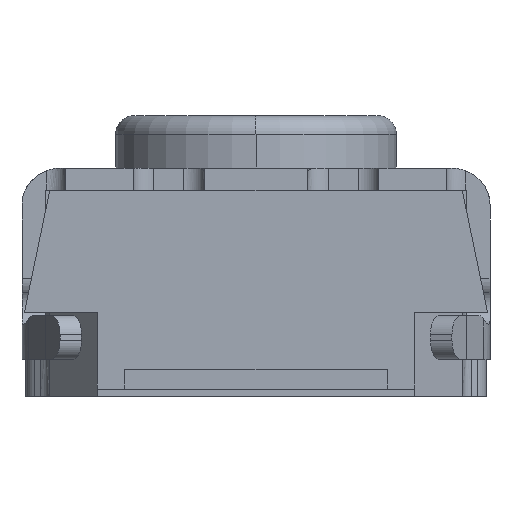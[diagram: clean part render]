
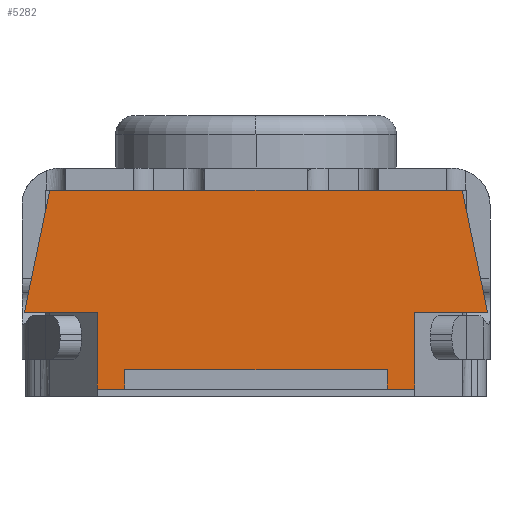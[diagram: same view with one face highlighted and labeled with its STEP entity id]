
A CAD part, left-side view. The second image highlights one B-rep face of the part: STEP entity #5282.
In plain terms, the highlighted planar face has unit normal (-1, 0, 0).
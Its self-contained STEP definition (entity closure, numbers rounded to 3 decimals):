
#420=DIRECTION('',(0.,1.,0.));
#421=VECTOR('',#420,2.203);
#422=CARTESIAN_POINT('',(-1.5,14.746,-0.031));
#423=LINE('',#422,#421);
#2199=DIRECTION('',(0.,-1.,0.));
#2200=VECTOR('',#2199,1.4);
#2201=CARTESIAN_POINT('',(-1.5,16.547,-0.992));
#2202=LINE('',#2201,#2200);
#2234=DIRECTION('',(0.,0.203,0.979));
#2235=VECTOR('',#2234,0.667);
#2236=CARTESIAN_POINT('',(-1.5,14.61,-0.685));
#2237=LINE('',#2236,#2235);
#2241=DIRECTION('',(0.,-1.,0.));
#2242=VECTOR('',#2241,0.147);
#2243=CARTESIAN_POINT('',(-1.5,15.147,-1.094));
#2244=LINE('',#2243,#2242);
#2248=DIRECTION('',(0.,0.,1.));
#2249=VECTOR('',#2248,0.102);
#2250=CARTESIAN_POINT('',(-1.5,15.147,-1.094));
#2251=LINE('',#2250,#2249);
#2255=DIRECTION('',(0.,0.,1.));
#2256=VECTOR('',#2255,0.102);
#2257=CARTESIAN_POINT('',(-1.5,16.547,-1.094));
#2258=LINE('',#2257,#2256);
#2262=DIRECTION('',(0.,-1.,0.));
#2263=VECTOR('',#2262,0.147);
#2264=CARTESIAN_POINT('',(-1.5,16.695,-1.094));
#2265=LINE('',#2264,#2263);
#2269=DIRECTION('',(0.,-1.,0.));
#2270=VECTOR('',#2269,0.39);
#2271=CARTESIAN_POINT('',(-1.5,17.085,-0.685));
#2272=LINE('',#2271,#2270);
#2276=DIRECTION('',(0.,0.203,-0.979));
#2277=VECTOR('',#2276,0.667);
#2278=CARTESIAN_POINT('',(-1.5,16.949,-0.031));
#2279=LINE('',#2278,#2277);
#2297=DIRECTION('',(0.,1.,0.));
#2298=VECTOR('',#2297,0.39);
#2299=CARTESIAN_POINT('',(-1.5,14.61,-0.685));
#2300=LINE('',#2299,#2298);
#2901=DIRECTION('',(0.,0.,1.));
#2902=VECTOR('',#2901,0.409);
#2903=CARTESIAN_POINT('',(-1.5,16.695,-1.094));
#2904=LINE('',#2903,#2902);
#3001=DIRECTION('',(0.,0.,-1.));
#3002=VECTOR('',#3001,0.409);
#3003=CARTESIAN_POINT('',(-1.5,15.,-0.685));
#3004=LINE('',#3003,#3002);
#3146=CARTESIAN_POINT('',(-1.5,16.949,-0.031));
#3147=CARTESIAN_POINT('',(-1.5,17.085,-0.685));
#3148=VERTEX_POINT('',#3146);
#3149=VERTEX_POINT('',#3147);
#3150=CARTESIAN_POINT('',(-1.5,16.695,-0.685));
#3151=VERTEX_POINT('',#3150);
#3152=CARTESIAN_POINT('',(-1.5,16.695,-1.094));
#3153=VERTEX_POINT('',#3152);
#3154=CARTESIAN_POINT('',(-1.5,15.,-0.685));
#3155=CARTESIAN_POINT('',(-1.5,15.,-1.094));
#3156=VERTEX_POINT('',#3154);
#3157=VERTEX_POINT('',#3155);
#3158=CARTESIAN_POINT('',(-1.5,14.61,-0.685));
#3159=VERTEX_POINT('',#3158);
#3160=CARTESIAN_POINT('',(-1.5,14.746,-0.031));
#3161=VERTEX_POINT('',#3160);
#3256=CARTESIAN_POINT('',(-1.5,16.547,-1.094));
#3257=CARTESIAN_POINT('',(-1.5,16.547,-0.992));
#3258=VERTEX_POINT('',#3256);
#3259=VERTEX_POINT('',#3257);
#3260=CARTESIAN_POINT('',(-1.5,15.147,-1.094));
#3261=CARTESIAN_POINT('',(-1.5,15.147,-0.992));
#3262=VERTEX_POINT('',#3260);
#3263=VERTEX_POINT('',#3261);
#5255=CARTESIAN_POINT('',(-1.5,17.076,-0.031));
#5256=DIRECTION('',(-1.,0.,0.));
#5257=DIRECTION('',(0.,0.,1.));
#5258=AXIS2_PLACEMENT_3D('',#5255,#5256,#5257);
#5259=PLANE('',#5258);
#5260=ORIENTED_EDGE('',*,*,#3760,.F.);
#5262=ORIENTED_EDGE('',*,*,#5261,.F.);
#5264=ORIENTED_EDGE('',*,*,#5263,.T.);
#5266=ORIENTED_EDGE('',*,*,#5265,.T.);
#5267=ORIENTED_EDGE('',*,*,#5141,.F.);
#5269=ORIENTED_EDGE('',*,*,#5268,.T.);
#5270=ORIENTED_EDGE('',*,*,#5208,.F.);
#5272=ORIENTED_EDGE('',*,*,#5271,.F.);
#5273=ORIENTED_EDGE('',*,*,#5133,.F.);
#5275=ORIENTED_EDGE('',*,*,#5274,.T.);
#5277=ORIENTED_EDGE('',*,*,#5276,.F.);
#5279=ORIENTED_EDGE('',*,*,#5278,.F.);
#5280=EDGE_LOOP('',(#5260,#5262,#5264,#5266,#5267,#5269,#5270,#5272,#5273,#5275,
#5277,#5279));
#5281=FACE_OUTER_BOUND('',#5280,.F.);
#3760=EDGE_CURVE('',#3161,#3148,#423,.T.);
#5133=EDGE_CURVE('',#3153,#3258,#2265,.T.);
#5141=EDGE_CURVE('',#3262,#3157,#2244,.T.);
#5208=EDGE_CURVE('',#3259,#3263,#2202,.T.);
#5261=EDGE_CURVE('',#3159,#3161,#2237,.T.);
#5263=EDGE_CURVE('',#3159,#3156,#2300,.T.);
#5265=EDGE_CURVE('',#3156,#3157,#3004,.T.);
#5268=EDGE_CURVE('',#3262,#3263,#2251,.T.);
#5271=EDGE_CURVE('',#3258,#3259,#2258,.T.);
#5274=EDGE_CURVE('',#3153,#3151,#2904,.T.);
#5276=EDGE_CURVE('',#3149,#3151,#2272,.T.);
#5278=EDGE_CURVE('',#3148,#3149,#2279,.T.);
#5282=ADVANCED_FACE('',(#5281),#5259,.T.);
